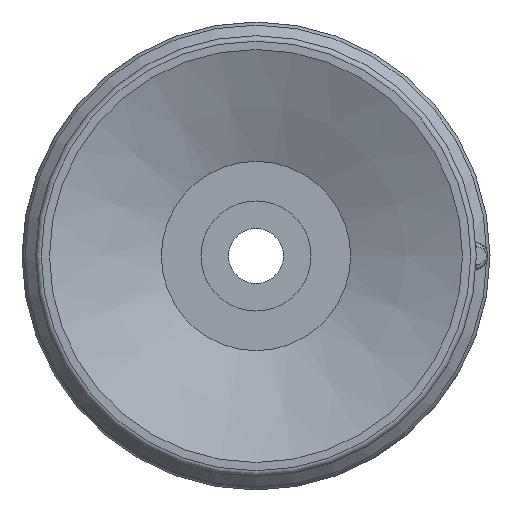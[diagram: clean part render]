
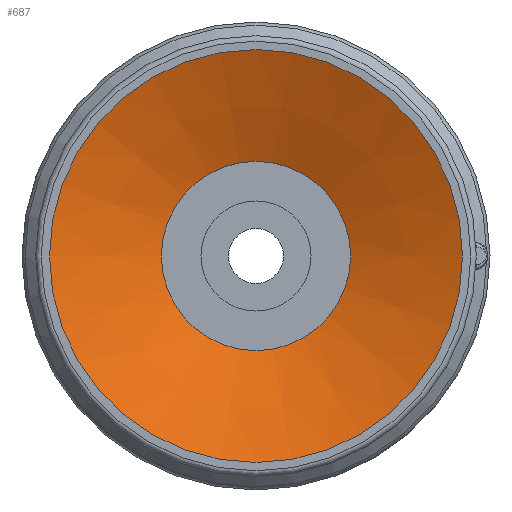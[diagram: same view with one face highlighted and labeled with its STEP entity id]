
A CAD part, front view. The second image highlights one B-rep face of the part: STEP entity #687.
In plain terms, the highlighted conical face has half-angle 67.5 degrees and reference radius 3.437 mm.
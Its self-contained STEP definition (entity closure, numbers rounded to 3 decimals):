
#687=ADVANCED_FACE('',(#949,#950),#951,.F.);
#949=FACE_BOUND('',#2291,.T.);
#950=FACE_OUTER_BOUND('',#2292,.T.);
#951=CONICAL_SURFACE('',#2293,3.437,1.178);
#2291=EDGE_LOOP('',(#3028));
#2292=EDGE_LOOP('',(#3029));
#2293=AXIS2_PLACEMENT_3D('',#3030,#3031,#3032);
#3028=ORIENTED_EDGE('',*,*,#3437,.F.);
#3029=ORIENTED_EDGE('',*,*,#3438,.T.);
#3030=CARTESIAN_POINT('',(0.0,0.0,1.683));
#3031=DIRECTION('',(0.0,0.,-1.0));
#3032=DIRECTION('',(0.0,1.0,0.));
#3437=EDGE_CURVE('',#3801,#3801,#3802,.T.);
#3438=EDGE_CURVE('',#3803,#3803,#3804,.T.);
#3801=VERTEX_POINT('',#4758);
#3802=CIRCLE('',#4759,3.437);
#3803=VERTEX_POINT('',#4760);
#3804=CIRCLE('',#4761,7.5);
#4758=CARTESIAN_POINT('',(-3.437,0.0,1.683));
#4759=AXIS2_PLACEMENT_3D('',#5106,#5107,#5108);
#4760=CARTESIAN_POINT('',(-7.5,0.0,0.));
#4761=AXIS2_PLACEMENT_3D('',#5109,#5110,#5111);
#5106=CARTESIAN_POINT('',(0.0,0.0,1.683));
#5107=DIRECTION('',(0.0,0.,-1.0));
#5108=DIRECTION('',(0.0,1.0,0.));
#5109=CARTESIAN_POINT('',(0.0,0.0,0.));
#5110=DIRECTION('',(0.0,0.,-1.0));
#5111=DIRECTION('',(0.0,1.0,0.));
